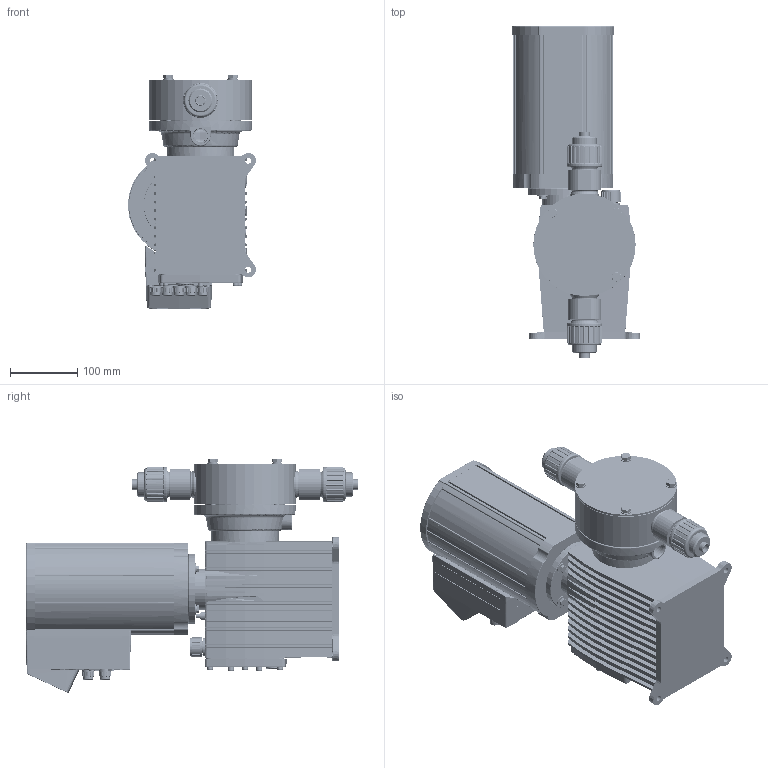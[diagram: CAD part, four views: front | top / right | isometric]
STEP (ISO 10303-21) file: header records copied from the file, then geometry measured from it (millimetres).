
FILE_DESCRIPTION (( 'STEP AP203' ), '1' );
FILE_NAME ('Memdos LP 210, 260 16_24 16_24.STEP', '2018-09-24T11:10:00', ( 'USER' ), ( '' ), 'SwSTEP 2.0', 'SolidWorks 2017', '' );
FILE_SCHEMA (( 'CONFIG_CONTROL_DESIGN' ));
Length unit declared in the file: millimetre
Products named in the file (1): Memdos LP 210, 260 16_24 16_24
Bounding box: 189.85 x 493.47 x 347.89 mm (x, y, z)
Volume: 9256399 mm3; surface area: 1056921.6 mm2
Topology: 67 solids, 67 shells, 4444 faces, 11820 edges, 7497 vertices
Faces by surface type: plane 2092, cylinder 1110, bspline 753, cone 245, torus 162, sphere 82
Full cylindrical faces by diameter (mm): 1.5 x1, 5 x8, 5.6 x1, 6 x9, 7.96 x6, 8 x4, 8.5 x8, 9 x10, 9.9 x3, 10 x12, 10.774 x40, 12 x7, 12.5 x4, 13 x4, 14 x1, 14.9 x1, 15 x7, 15.3 x2, 16 x8, 16.662 x1, 17 x5, 17.886 x1, 18 x6, 18.631 x1, 19.2 x2, 20.955 x2, 22 x1, 22.05 x1, 22.5 x1, 22.955 x1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
Entity records: 209561 total; most frequent: CARTESIAN_POINT 112490, ORIENTED_EDGE 21780, DIRECTION 17242, EDGE_CURVE 10890, VERTEX_POINT 7178, AXIS2_PLACEMENT_3D 6082, LINE 5078, VECTOR 5078
